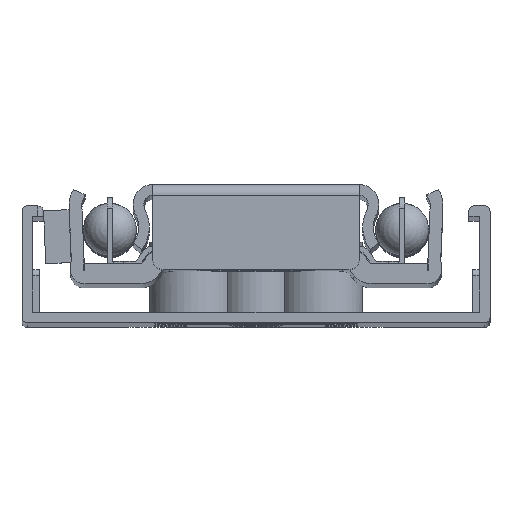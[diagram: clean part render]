
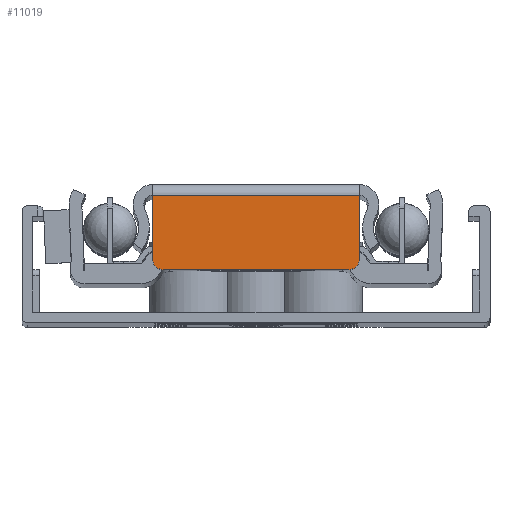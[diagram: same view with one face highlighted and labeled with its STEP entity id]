
A CAD part, top view. The second image highlights one B-rep face of the part: STEP entity #11019.
In plain terms, the highlighted planar face has unit normal (0, 0, 1).
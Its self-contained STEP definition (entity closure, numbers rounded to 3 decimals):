
#882=CIRCLE('',#12099,1.);
#883=CIRCLE('',#12100,1.);
#1431=FACE_OUTER_BOUND('',#2085,.T.);
#2085=EDGE_LOOP('',(#10010,#10011,#10012,#10013,#10014,#10015));
#3171=LINE('',#18643,#4264);
#3172=LINE('',#18646,#4265);
#3173=LINE('',#18650,#4266);
#3174=LINE('',#18653,#4267);
#4264=VECTOR('',#15208,10.);
#4265=VECTOR('',#15211,10.);
#4266=VECTOR('',#15214,10.);
#4267=VECTOR('',#15217,10.);
#5322=VERTEX_POINT('',#18639);
#5323=VERTEX_POINT('',#18641);
#5324=VERTEX_POINT('',#18645);
#5325=VERTEX_POINT('',#18647);
#5326=VERTEX_POINT('',#18649);
#5327=VERTEX_POINT('',#18651);
#6900=EDGE_CURVE('',#5323,#5322,#3171,.T.);
#6901=EDGE_CURVE('',#5323,#5324,#3172,.T.);
#6902=EDGE_CURVE('',#5325,#5324,#882,.T.);
#6903=EDGE_CURVE('',#5325,#5326,#3173,.T.);
#6904=EDGE_CURVE('',#5327,#5326,#883,.T.);
#6905=EDGE_CURVE('',#5322,#5327,#3174,.T.);
#10010=ORIENTED_EDGE('',*,*,#6900,.F.);
#10011=ORIENTED_EDGE('',*,*,#6901,.T.);
#10012=ORIENTED_EDGE('',*,*,#6902,.F.);
#10013=ORIENTED_EDGE('',*,*,#6903,.T.);
#10014=ORIENTED_EDGE('',*,*,#6904,.F.);
#10015=ORIENTED_EDGE('',*,*,#6905,.F.);
#10477=PLANE('',#12098);
#11019=ADVANCED_FACE('',(#1431),#10477,.T.);
#12098=AXIS2_PLACEMENT_3D('',#18644,#15209,#15210);
#12099=AXIS2_PLACEMENT_3D('',#18648,#15212,#15213);
#12100=AXIS2_PLACEMENT_3D('',#18652,#15215,#15216);
#15208=DIRECTION('',(-1.,0.,0.));
#15209=DIRECTION('center_axis',(0.,0.,1.));
#15210=DIRECTION('ref_axis',(1.,0.,0.));
#15211=DIRECTION('',(0.,1.,0.));
#15212=DIRECTION('center_axis',(0.,0.,-1.));
#15213=DIRECTION('ref_axis',(0.707,0.707,0.));
#15214=DIRECTION('',(-1.,0.,0.));
#15215=DIRECTION('center_axis',(0.,0.,-1.));
#15216=DIRECTION('ref_axis',(-0.707,0.707,0.));
#15217=DIRECTION('',(0.,1.,0.));
#18639=CARTESIAN_POINT('',(4.892,-4.95,249.));
#18641=CARTESIAN_POINT('',(24.354,-4.95,249.));
#18643=CARTESIAN_POINT('',(19.501,-4.95,249.));
#18644=CARTESIAN_POINT('Origin',(24.354,-5.95,249.));
#18645=CARTESIAN_POINT('',(24.354,1.05,249.));
#18646=CARTESIAN_POINT('',(24.354,-5.95,249.));
#18647=CARTESIAN_POINT('',(23.354,2.05,249.));
#18648=CARTESIAN_POINT('Origin',(23.354,1.05,249.));
#18649=CARTESIAN_POINT('',(5.892,2.05,249.));
#18650=CARTESIAN_POINT('',(24.354,2.05,249.));
#18651=CARTESIAN_POINT('',(4.892,1.05,249.));
#18652=CARTESIAN_POINT('Origin',(5.892,1.05,249.));
#18653=CARTESIAN_POINT('',(4.892,-5.95,249.));
